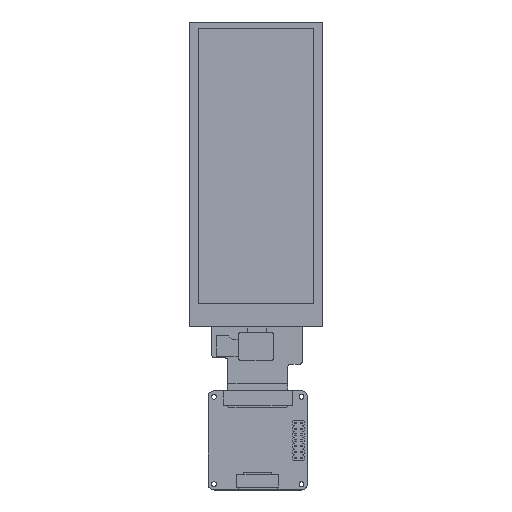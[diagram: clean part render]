
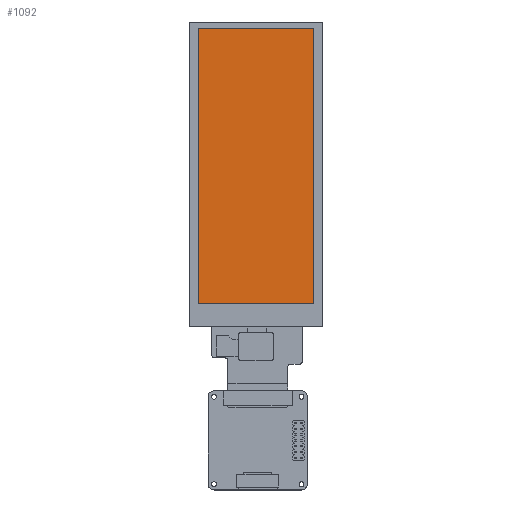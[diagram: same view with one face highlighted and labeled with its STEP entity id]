
A CAD part, top view. The second image highlights one B-rep face of the part: STEP entity #1092.
In plain terms, the highlighted planar face has unit normal (0, 0, 1).
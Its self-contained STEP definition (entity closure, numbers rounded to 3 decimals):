
#856=DIRECTION('',(1.,0.,0.));
#857=VECTOR('',#856,39.48);
#858=CARTESIAN_POINT('',(-19.74,49.34,3.78));
#859=LINE('',#858,#857);
#860=DIRECTION('',(0.,1.,0.));
#861=VECTOR('',#860,94.33);
#862=CARTESIAN_POINT('',(-19.74,-44.99,3.78));
#863=LINE('',#862,#861);
#864=DIRECTION('',(-1.,0.,0.));
#865=VECTOR('',#864,39.48);
#866=CARTESIAN_POINT('',(19.74,-44.99,3.78));
#867=LINE('',#866,#865);
#868=DIRECTION('',(0.,-1.,0.));
#869=VECTOR('',#868,94.33);
#870=CARTESIAN_POINT('',(19.74,49.34,3.78));
#871=LINE('',#870,#869);
#904=CARTESIAN_POINT('',(-19.74,49.34,3.78));
#905=CARTESIAN_POINT('',(19.74,49.34,3.78));
#906=VERTEX_POINT('',#904);
#907=VERTEX_POINT('',#905);
#908=CARTESIAN_POINT('',(19.74,-44.99,3.78));
#909=VERTEX_POINT('',#908);
#910=CARTESIAN_POINT('',(-19.74,-44.99,3.78));
#911=VERTEX_POINT('',#910);
#1081=CARTESIAN_POINT('',(0.,-0.575,3.78));
#1082=DIRECTION('',(0.,0.,1.));
#1083=DIRECTION('',(1.,0.,0.));
#1084=AXIS2_PLACEMENT_3D('',#1081,#1082,#1083);
#1085=PLANE('',#1084);
#1086=ORIENTED_EDGE('',*,*,#1063,.T.);
#1087=ORIENTED_EDGE('',*,*,#1069,.T.);
#1088=ORIENTED_EDGE('',*,*,#1067,.T.);
#1089=ORIENTED_EDGE('',*,*,#1065,.T.);
#1090=EDGE_LOOP('',(#1086,#1087,#1088,#1089));
#1091=FACE_OUTER_BOUND('',#1090,.F.);
#1063=EDGE_CURVE('',#906,#907,#859,.T.);
#1065=EDGE_CURVE('',#911,#906,#863,.T.);
#1067=EDGE_CURVE('',#909,#911,#867,.T.);
#1069=EDGE_CURVE('',#907,#909,#871,.T.);
#1092=ADVANCED_FACE('',(#1091),#1085,.T.);
